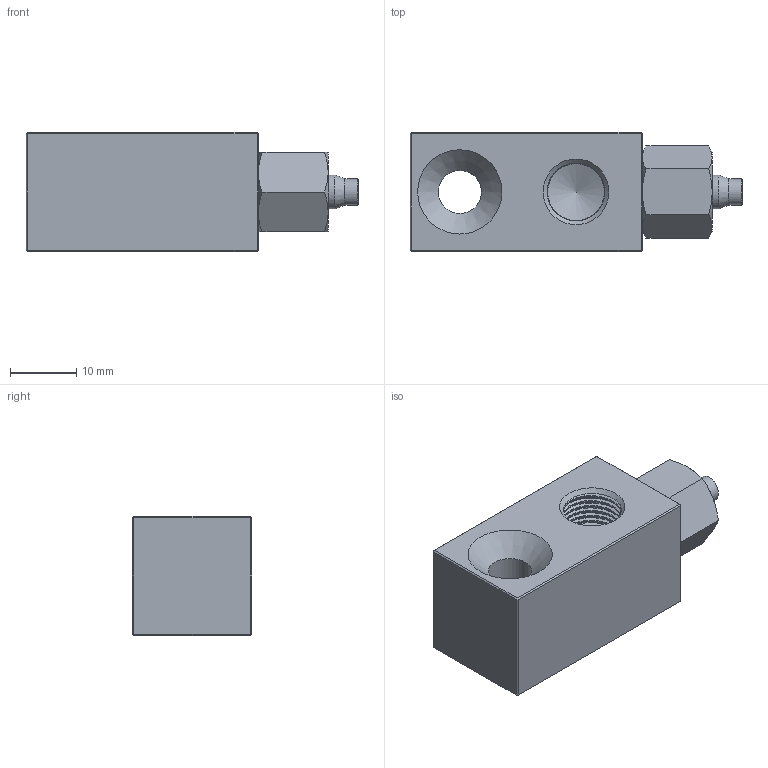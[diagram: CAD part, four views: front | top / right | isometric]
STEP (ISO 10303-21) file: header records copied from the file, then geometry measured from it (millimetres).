
FILE_DESCRIPTION(/* description */ (''),/* implementation_level */ '2;1');
FILE_NAME(/* name */ '942EK Winkelverschraubung Einheit.step',/* time_stamp */ '2026-03-22T15:30:55+01:00',/* author */ (''),/* organization */ (''),/* preprocessor_version */ 'ST-DEVELOPER v20.1',/* originating_system */ 'Autodesk Translation Framework v14.24.0.0',/* authorisation */ '');
FILE_SCHEMA (('AUTOMOTIVE_DESIGN { 1 0 10303 214 3 1 1 }'));
Length unit declared in the file: millimetre
Products named in the file (3): 942EK Winkelverschraubung Einheit; 942EK Winkelverschraubung Grundkörper; 942EK Verschraubung Schlauch
Assembly tree (2 placements, depth 2):
  942EK Winkelverschraubung Einheit
    942EK Winkelverschraubung Grundkörper
    942EK Verschraubung Schlauch
Bounding box: 50 x 18 x 18 mm (x, y, z)
Volume: 10629.4 mm3; surface area: 5624.7 mm2
Topology: 2 solids, 2 shells, 131 faces, 310 edges, 185 vertices
Faces by surface type: plane 44, cylinder 41, cone 28, bspline 10, torus 8
Full cylindrical faces by diameter (mm): 2.5 x1, 4 x1, 5.1 x1, 5.95 x1, 6.5 x1, 8.4 x1, 8.744 x3, 9.036 x4, 9.728 x7, 9.884 x3, 10 x1, 10.147 x4, 11.6 x1
Entity records: 9985 total; most frequent: CARTESIAN_POINT 7137, ORIENTED_EDGE 614, DIRECTION 520, EDGE_CURVE 307, AXIS2_PLACEMENT_3D 208, VERTEX_POINT 184, EDGE_LOOP 141, FACE_OUTER_BOUND 131
